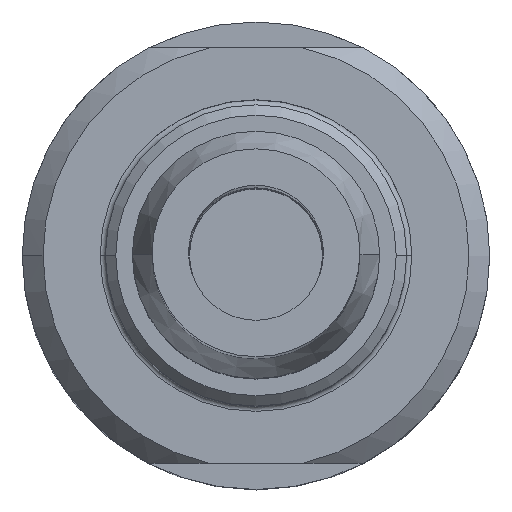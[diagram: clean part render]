
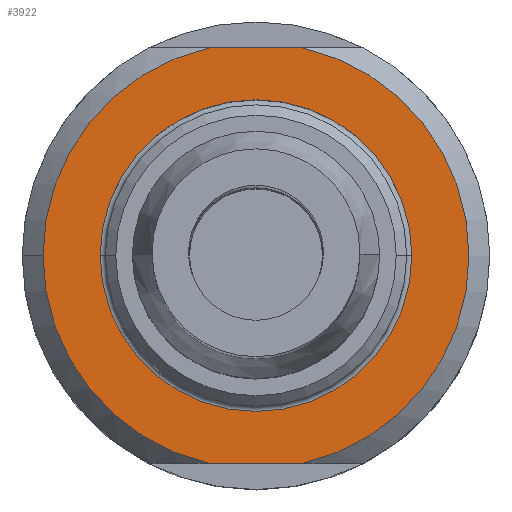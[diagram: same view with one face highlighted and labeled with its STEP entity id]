
A CAD part, top view. The second image highlights one B-rep face of the part: STEP entity #3922.
In plain terms, the highlighted planar face has unit normal (0, 0, 1).
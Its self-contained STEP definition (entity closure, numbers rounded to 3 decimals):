
#8 = CARTESIAN_POINT ( 'NONE',  ( 2.25, 10., 22.05 ) ) ;
#21 = CARTESIAN_POINT ( 'NONE',  ( -10.25, 0., 22.05 ) ) ;
#113 = CIRCLE ( 'NONE', #2657, 10.25 ) ;
#192 = PLANE ( 'NONE',  #5417 ) ;
#234 = EDGE_CURVE ( 'NONE', #2464, #4095, #1238, .T. ) ;
#380 = ORIENTED_EDGE ( 'NONE', *, *, #5046, .F. ) ;
#381 = DIRECTION ( 'NONE',  ( 0., 0., -1. ) ) ;
#407 = DIRECTION ( 'NONE',  ( 0., 0., -1. ) ) ;
#457 = DIRECTION ( 'NONE',  ( -1., 0., 0. ) ) ;
#490 = DIRECTION ( 'NONE',  ( -1., 0., 0. ) ) ;
#508 = CARTESIAN_POINT ( 'NONE',  ( -23.067, -10., 22.05 ) ) ;
#795 = EDGE_CURVE ( 'NONE', #2679, #2913, #5092, .T. ) ;
#811 = CARTESIAN_POINT ( 'NONE',  ( 0., 0., 22.05 ) ) ;
#861 = VECTOR ( 'NONE', #4193, 1000. ) ;
#1105 = VERTEX_POINT ( 'NONE', #5361 ) ;
#1129 = VECTOR ( 'NONE', #2911, 1000. ) ;
#1238 = LINE ( 'NONE', #2468, #1129 ) ;
#1261 = DIRECTION ( 'NONE',  ( -1., 0., 0. ) ) ;
#1517 = DIRECTION ( 'NONE',  ( 0., 0., 1. ) ) ;
#1610 = EDGE_LOOP ( 'NONE', ( #1989, #3081 ) ) ;
#1640 = VERTEX_POINT ( 'NONE', #1968 ) ;
#1645 = AXIS2_PLACEMENT_3D ( 'NONE', #811, #407, #1261 ) ;
#1648 = CARTESIAN_POINT ( 'NONE',  ( 0., 0., 22.05 ) ) ;
#1903 = VERTEX_POINT ( 'NONE', #21 ) ;
#1968 = CARTESIAN_POINT ( 'NONE',  ( -7.5, 0., 22.05 ) ) ;
#1989 = ORIENTED_EDGE ( 'NONE', *, *, #3856, .T. ) ;
#2230 = DIRECTION ( 'NONE',  ( 0., 0., -1. ) ) ;
#2261 = CIRCLE ( 'NONE', #4108, 10.25 ) ;
#2268 = AXIS2_PLACEMENT_3D ( 'NONE', #3469, #2230, #3127 ) ;
#2464 = VERTEX_POINT ( 'NONE', #8 ) ;
#2468 = CARTESIAN_POINT ( 'NONE',  ( -23.067, 10., 22.05 ) ) ;
#2543 = CARTESIAN_POINT ( 'NONE',  ( 0., 0., 22.05 ) ) ;
#2657 = AXIS2_PLACEMENT_3D ( 'NONE', #3044, #4690, #4717 ) ;
#2679 = VERTEX_POINT ( 'NONE', #4045 ) ;
#2687 = FACE_BOUND ( 'NONE', #1610, .T. ) ;
#2911 = DIRECTION ( 'NONE',  ( -1., 0., 0. ) ) ;
#2913 = VERTEX_POINT ( 'NONE', #3906 ) ;
#3044 = CARTESIAN_POINT ( 'NONE',  ( 0., 0., 22.05 ) ) ;
#3081 = ORIENTED_EDGE ( 'NONE', *, *, #4085, .T. ) ;
#3127 = DIRECTION ( 'NONE',  ( -1., 0., 0. ) ) ;
#3405 = CIRCLE ( 'NONE', #1645, 10.25 ) ;
#3469 = CARTESIAN_POINT ( 'NONE',  ( 0., 0., 22.05 ) ) ;
#3546 = CARTESIAN_POINT ( 'NONE',  ( 0., 10.25, 22.05 ) ) ;
#3742 = EDGE_LOOP ( 'NONE', ( #5373, #4253, #5271, #5316, #380 ) ) ;
#3851 = CARTESIAN_POINT ( 'NONE',  ( -2.25, 10., 22.05 ) ) ;
#3856 = EDGE_CURVE ( 'NONE', #1640, #1105, #3938, .T. ) ;
#3906 = CARTESIAN_POINT ( 'NONE',  ( 2.25, -10., 22.05 ) ) ;
#3922 = ADVANCED_FACE ( 'NONE', ( #2687, #4295 ), #192, .T. ) ;
#3938 = CIRCLE ( 'NONE', #2268, 7.5 ) ;
#4045 = CARTESIAN_POINT ( 'NONE',  ( -2.25, -10., 22.05 ) ) ;
#4085 = EDGE_CURVE ( 'NONE', #1105, #1640, #5147, .T. ) ;
#4095 = VERTEX_POINT ( 'NONE', #3851 ) ;
#4108 = AXIS2_PLACEMENT_3D ( 'NONE', #2543, #4223, #457 ) ;
#4186 = EDGE_CURVE ( 'NONE', #2679, #1903, #3405, .T. ) ;
#4193 = DIRECTION ( 'NONE',  ( 1., 0., 0. ) ) ;
#4223 = DIRECTION ( 'NONE',  ( 0., 0., -1. ) ) ;
#4253 = ORIENTED_EDGE ( 'NONE', *, *, #795, .T. ) ;
#4295 = FACE_OUTER_BOUND ( 'NONE', #3742, .T. ) ;
#4421 = EDGE_CURVE ( 'NONE', #2464, #2913, #2261, .T. ) ;
#4504 = DIRECTION ( 'NONE',  ( 1., 0., 0. ) ) ;
#4690 = DIRECTION ( 'NONE',  ( 0., 0., -1. ) ) ;
#4717 = DIRECTION ( 'NONE',  ( -1., 0., 0. ) ) ;
#4802 = AXIS2_PLACEMENT_3D ( 'NONE', #1648, #381, #490 ) ;
#5046 = EDGE_CURVE ( 'NONE', #1903, #4095, #113, .T. ) ;
#5092 = LINE ( 'NONE', #508, #861 ) ;
#5147 = CIRCLE ( 'NONE', #4802, 7.5 ) ;
#5271 = ORIENTED_EDGE ( 'NONE', *, *, #4421, .F. ) ;
#5316 = ORIENTED_EDGE ( 'NONE', *, *, #234, .T. ) ;
#5361 = CARTESIAN_POINT ( 'NONE',  ( 7.5, 0., 22.05 ) ) ;
#5373 = ORIENTED_EDGE ( 'NONE', *, *, #4186, .F. ) ;
#5417 = AXIS2_PLACEMENT_3D ( 'NONE', #3546, #1517, #4504 ) ;
